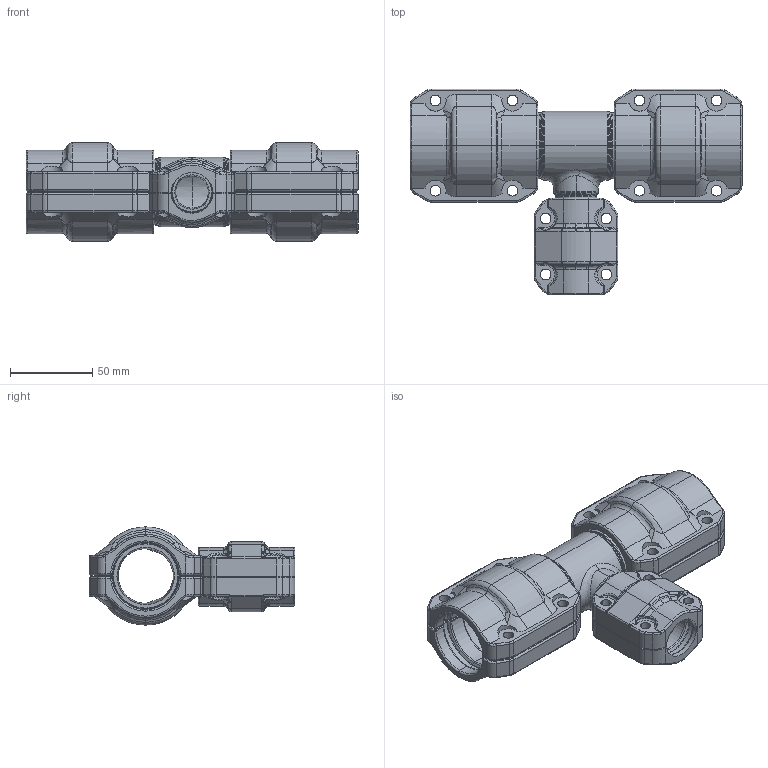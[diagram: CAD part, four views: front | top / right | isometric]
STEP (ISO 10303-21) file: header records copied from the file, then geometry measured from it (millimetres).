
FILE_DESCRIPTION(/* description */ (''),/* implementation_level */ '2;1');
FILE_NAME(/* name */ '4207_stp.stp',/* time_stamp */ '2025-06-23T11:35:39+08:00',/* author */ (''),/* organization */ (''),/* preprocessor_version */ 'ST-DEVELOPER v11',/* originating_system */ 'SIEMENS PLM Software NX 7.5',/* authorisation */ '');
FILE_SCHEMA (('CONFIG_CONTROL_DESIGN'));
Products named in the file (1): AdmiCFA3ahho
Bounding box: 202.4 x 125.5 x 59.9 mm (x, y, z)
Volume: 250999 mm3; surface area: 127807.2 mm2
Topology: 7 solids, 7 shells, 1927 faces, 4774 edges, 2819 vertices
Faces by surface type: cylinder 646, torus 450, bspline 384, plane 253, cone 148, sphere 34, extrusion 12
Entity records: 82092 total; most frequent: CARTESIAN_POINT 40032, ORIENTED_EDGE 9440, DIRECTION 7988, EDGE_CURVE 4720, AXIS2_PLACEMENT_3D 3306, VERTEX_POINT 2819, EDGE_LOOP 1991, ADVANCED_FACE 1927
